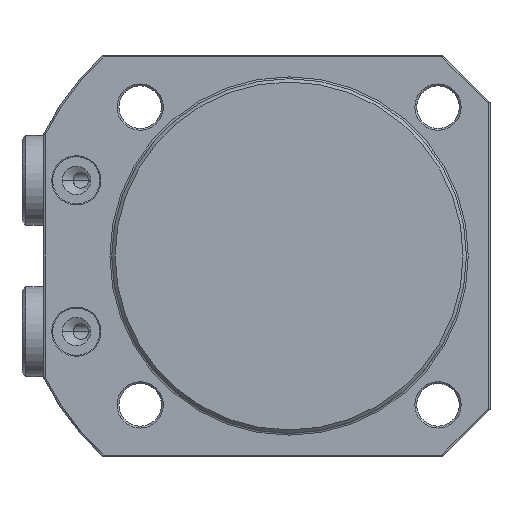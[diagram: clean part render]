
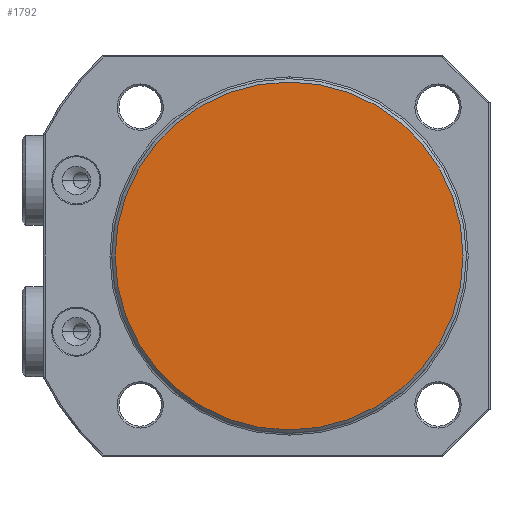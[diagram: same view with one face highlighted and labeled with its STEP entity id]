
A CAD part, front view. The second image highlights one B-rep face of the part: STEP entity #1792.
In plain terms, the highlighted planar face has unit normal (0, -1, 0) as drawn and (-1, 0, 0) by its records, which use the part's own axes.
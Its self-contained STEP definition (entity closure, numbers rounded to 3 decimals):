
#1678=PLANE('',#7046);
#1792=ADVANCED_FACE('',(#2282),#1678,.F.);
#2282=FACE_OUTER_BOUND('',#2606,.T.);
#2606=EDGE_LOOP('',(#3775));
#3775=ORIENTED_EDGE('',*,*,#5846,.T.);
#5308=VERTEX_POINT('',#9664);
#5846=EDGE_CURVE('',#5308,#5308,#6629,.T.);
#6629=CIRCLE('',#7045,36.8);
#7045=AXIS2_PLACEMENT_3D('',#9663,#7897,#7898);
#7046=AXIS2_PLACEMENT_3D('',#9665,#7899,#7900);
#7897=DIRECTION('',(-1.,0.,0.));
#7898=DIRECTION('',(0.,0.,-1.));
#7899=DIRECTION('',(1.,0.,0.));
#7900=DIRECTION('',(0.,0.,1.));
#9663=CARTESIAN_POINT('',(0.,0.,0.));
#9664=CARTESIAN_POINT('',(0.,0.,-36.8));
#9665=CARTESIAN_POINT('',(0.,0.,0.));
